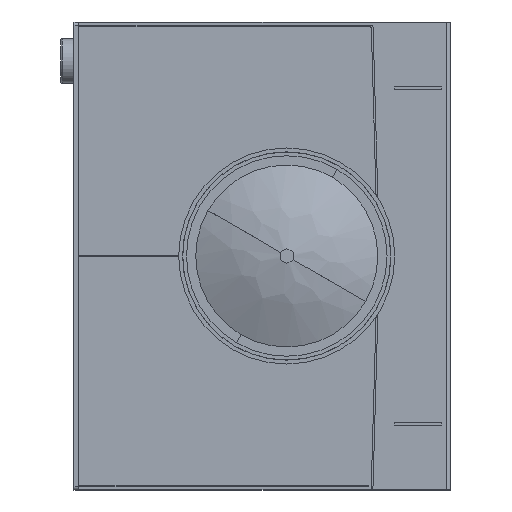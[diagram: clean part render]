
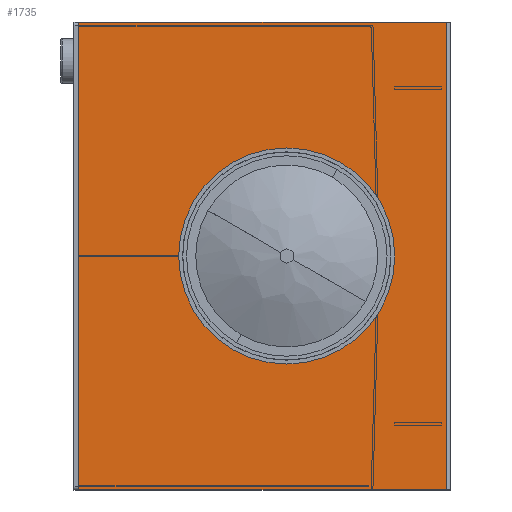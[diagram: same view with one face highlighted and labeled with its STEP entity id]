
A CAD part, left-side view. The second image highlights one B-rep face of the part: STEP entity #1735.
In plain terms, the highlighted planar face has unit normal (-1, 0, 0) as drawn and (1, 0, 0) by its records, which use the part's own axes.
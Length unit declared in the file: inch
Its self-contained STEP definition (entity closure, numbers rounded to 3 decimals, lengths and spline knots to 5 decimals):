
#60 = DIRECTION ( 'NONE',  ( 1., 0., 0. ) ) ;
#569 = VECTOR ( 'NONE', #7387, 39.37008 ) ;
#580 = EDGE_CURVE ( 'NONE', #4675, #8312, #2542, .T. ) ;
#733 = EDGE_LOOP ( 'NONE', ( #6103, #4619 ) ) ;
#1352 = VERTEX_POINT ( 'NONE', #1793 ) ;
#1362 = EDGE_CURVE ( 'NONE', #8312, #7694, #6476, .T. ) ;
#1370 = CARTESIAN_POINT ( 'NONE',  ( 0., 102.2853, 18. ) ) ;
#1474 = AXIS2_PLACEMENT_3D ( 'NONE', #3545, #60, #4207 ) ;
#1735 = ADVANCED_FACE ( 'NONE', ( #8826, #3836 ), #4796, .F. ) ;
#1793 = CARTESIAN_POINT ( 'NONE',  ( 0., 130.5353, -18. ) ) ;
#1891 = VECTOR ( 'NONE', #5338, 39.37008 ) ;
#2213 = LINE ( 'NONE', #3082, #4427 ) ;
#2542 = LINE ( 'NONE', #7446, #1891 ) ;
#2667 = ORIENTED_EDGE ( 'NONE', *, *, #4109, .T. ) ;
#2669 = CARTESIAN_POINT ( 'NONE',  ( 0., 0., 0. ) ) ;
#2758 = EDGE_LOOP ( 'NONE', ( #3305, #4733, #2667, #6020 ) ) ;
#2888 = CARTESIAN_POINT ( 'NONE',  ( 0., 102.2853, -18. ) ) ;
#3082 = CARTESIAN_POINT ( 'NONE',  ( 0., 130.5353, 18. ) ) ;
#3305 = ORIENTED_EDGE ( 'NONE', *, *, #1362, .T. ) ;
#3545 = CARTESIAN_POINT ( 'NONE',  ( 0., 114.5448, 0. ) ) ;
#3567 = AXIS2_PLACEMENT_3D ( 'NONE', #4092, #6204, #6913 ) ;
#3752 = VECTOR ( 'NONE', #7931, 39.37008 ) ;
#3836 = FACE_OUTER_BOUND ( 'NONE', #2758, .T. ) ;
#4020 = CIRCLE ( 'NONE', #1474, 7. ) ;
#4092 = CARTESIAN_POINT ( 'NONE',  ( 0., 114.5448, 0. ) ) ;
#4109 = EDGE_CURVE ( 'NONE', #1352, #4675, #2213, .T. ) ;
#4207 = DIRECTION ( 'NONE',  ( 0., 0., -1. ) ) ;
#4366 = CIRCLE ( 'NONE', #3567, 7. ) ;
#4427 = VECTOR ( 'NONE', #8765, 39.37008 ) ;
#4513 = EDGE_CURVE ( 'NONE', #7694, #1352, #7057, .T. ) ;
#4619 = ORIENTED_EDGE ( 'NONE', *, *, #6478, .F. ) ;
#4675 = VERTEX_POINT ( 'NONE', #6711 ) ;
#4730 = CARTESIAN_POINT ( 'NONE',  ( 0., 114.5448, 7. ) ) ;
#4733 = ORIENTED_EDGE ( 'NONE', *, *, #4513, .T. ) ;
#4796 = PLANE ( 'NONE',  #7564 ) ;
#5138 = CARTESIAN_POINT ( 'NONE',  ( 0., 101.9103, -18. ) ) ;
#5313 = CARTESIAN_POINT ( 'NONE',  ( 0., 102.2853, 18. ) ) ;
#5338 = DIRECTION ( 'NONE',  ( 0., -1., 0. ) ) ;
#5512 = CARTESIAN_POINT ( 'NONE',  ( 0., 114.5448, -7. ) ) ;
#6020 = ORIENTED_EDGE ( 'NONE', *, *, #580, .T. ) ;
#6103 = ORIENTED_EDGE ( 'NONE', *, *, #7189, .F. ) ;
#6172 = DIRECTION ( 'NONE',  ( -1., 0., 0. ) ) ;
#6204 = DIRECTION ( 'NONE',  ( 1., 0., 0. ) ) ;
#6476 = LINE ( 'NONE', #5313, #569 ) ;
#6478 = EDGE_CURVE ( 'NONE', #8794, #8402, #4366, .T. ) ;
#6711 = CARTESIAN_POINT ( 'NONE',  ( 0., 130.5353, 18. ) ) ;
#6913 = DIRECTION ( 'NONE',  ( 0., 0., -1. ) ) ;
#7057 = LINE ( 'NONE', #5138, #3752 ) ;
#7189 = EDGE_CURVE ( 'NONE', #8402, #8794, #4020, .T. ) ;
#7387 = DIRECTION ( 'NONE',  ( 0., 0., -1. ) ) ;
#7446 = CARTESIAN_POINT ( 'NONE',  ( 0., 101.9103, 18. ) ) ;
#7564 = AXIS2_PLACEMENT_3D ( 'NONE', #2669, #6172, #8339 ) ;
#7694 = VERTEX_POINT ( 'NONE', #2888 ) ;
#7931 = DIRECTION ( 'NONE',  ( 0., 1., 0. ) ) ;
#8312 = VERTEX_POINT ( 'NONE', #1370 ) ;
#8339 = DIRECTION ( 'NONE',  ( 0., 0., 1. ) ) ;
#8402 = VERTEX_POINT ( 'NONE', #5512 ) ;
#8765 = DIRECTION ( 'NONE',  ( 0., 0., 1. ) ) ;
#8794 = VERTEX_POINT ( 'NONE', #4730 ) ;
#8826 = FACE_BOUND ( 'NONE', #733, .T. ) ;
